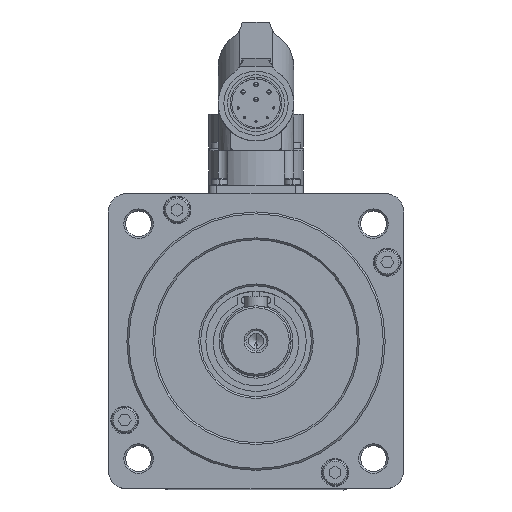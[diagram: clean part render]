
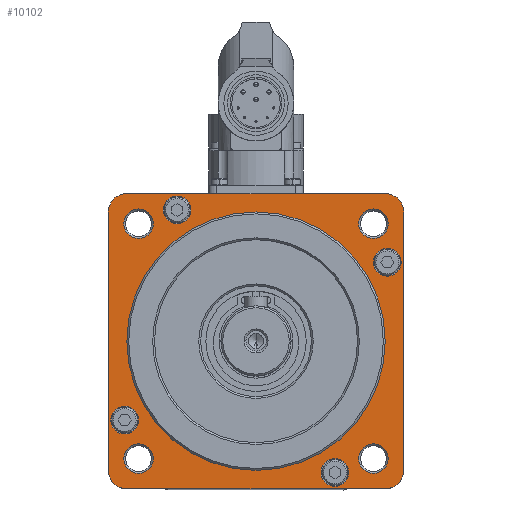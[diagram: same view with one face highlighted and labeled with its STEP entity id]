
A CAD part, top view. The second image highlights one B-rep face of the part: STEP entity #10102.
In plain terms, the highlighted planar face has unit normal (0, 0, 1) as drawn and (0, 0, -1) by its records, which use the part's own axes.
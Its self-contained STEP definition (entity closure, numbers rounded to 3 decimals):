
#8509=CARTESIAN_POINT('',(0.,0.,0.));
#8510=DIRECTION('',(0.,0.,-1.));
#8511=DIRECTION('',(-1.,0.,0.));
#8512=AXIS2_PLACEMENT_3D('',#8509,#8510,#8511);
#8514=CARTESIAN_POINT('',(0.,0.,0.));
#8515=DIRECTION('',(0.,0.,-1.));
#8516=DIRECTION('',(1.,0.,0.));
#8517=AXIS2_PLACEMENT_3D('',#8514,#8515,#8516);
#8519=CARTESIAN_POINT('',(-35.,35.,0.));
#8520=DIRECTION('',(0.,0.,-1.));
#8521=DIRECTION('',(-1.,0.,0.));
#8522=AXIS2_PLACEMENT_3D('',#8519,#8520,#8521);
#8524=DIRECTION('',(0.,-1.,0.));
#8525=VECTOR('',#8524,70.);
#8526=CARTESIAN_POINT('',(-40.,35.,0.));
#8527=LINE('',#8526,#8525);
#8528=CARTESIAN_POINT('',(-35.,-35.,0.));
#8529=DIRECTION('',(0.,0.,-1.));
#8530=DIRECTION('',(0.,-1.,0.));
#8531=AXIS2_PLACEMENT_3D('',#8528,#8529,#8530);
#8533=DIRECTION('',(1.,0.,0.));
#8534=VECTOR('',#8533,70.);
#8535=CARTESIAN_POINT('',(-35.,-40.,0.));
#8536=LINE('',#8535,#8534);
#8537=CARTESIAN_POINT('',(35.,-35.,0.));
#8538=DIRECTION('',(0.,0.,-1.));
#8539=DIRECTION('',(1.,0.,0.));
#8540=AXIS2_PLACEMENT_3D('',#8537,#8538,#8539);
#8542=DIRECTION('',(0.,1.,0.));
#8543=VECTOR('',#8542,70.);
#8544=CARTESIAN_POINT('',(40.,-35.,0.));
#8545=LINE('',#8544,#8543);
#8546=CARTESIAN_POINT('',(35.,35.,0.));
#8547=DIRECTION('',(0.,0.,-1.));
#8548=DIRECTION('',(0.,1.,0.));
#8549=AXIS2_PLACEMENT_3D('',#8546,#8547,#8548);
#8551=DIRECTION('',(-1.,0.,0.));
#8552=VECTOR('',#8551,70.);
#8553=CARTESIAN_POINT('',(35.,40.,0.));
#8554=LINE('',#8553,#8552);
#8555=CARTESIAN_POINT('',(-35.572,21.374,0.));
#8556=DIRECTION('',(0.,0.,1.));
#8557=DIRECTION('',(1.,0.,0.));
#8558=AXIS2_PLACEMENT_3D('',#8555,#8556,#8557);
#8560=CARTESIAN_POINT('',(-35.572,21.374,0.));
#8561=DIRECTION('',(0.,0.,1.));
#8562=DIRECTION('',(-1.,0.,0.));
#8563=AXIS2_PLACEMENT_3D('',#8560,#8561,#8562);
#8565=CARTESIAN_POINT('',(21.374,35.572,0.));
#8566=DIRECTION('',(0.,0.,1.));
#8567=DIRECTION('',(0.,-1.,0.));
#8568=AXIS2_PLACEMENT_3D('',#8565,#8566,#8567);
#8570=CARTESIAN_POINT('',(21.374,35.572,0.));
#8571=DIRECTION('',(0.,0.,1.));
#8572=DIRECTION('',(0.,1.,0.));
#8573=AXIS2_PLACEMENT_3D('',#8570,#8571,#8572);
#8575=CARTESIAN_POINT('',(35.572,-21.374,0.));
#8576=DIRECTION('',(0.,0.,1.));
#8577=DIRECTION('',(-1.,0.,0.));
#8578=AXIS2_PLACEMENT_3D('',#8575,#8576,#8577);
#8580=CARTESIAN_POINT('',(35.572,-21.374,0.));
#8581=DIRECTION('',(0.,0.,1.));
#8582=DIRECTION('',(1.,0.,0.));
#8583=AXIS2_PLACEMENT_3D('',#8580,#8581,#8582);
#8585=CARTESIAN_POINT('',(-21.374,-35.572,0.));
#8586=DIRECTION('',(0.,0.,1.));
#8587=DIRECTION('',(0.,1.,0.));
#8588=AXIS2_PLACEMENT_3D('',#8585,#8586,#8587);
#8590=CARTESIAN_POINT('',(-21.374,-35.572,0.));
#8591=DIRECTION('',(0.,0.,1.));
#8592=DIRECTION('',(0.,-1.,0.));
#8593=AXIS2_PLACEMENT_3D('',#8590,#8591,#8592);
#8595=CARTESIAN_POINT('',(-31.82,-31.82,0.));
#8596=DIRECTION('',(0.,0.,1.));
#8597=DIRECTION('',(-1.,0.,0.));
#8598=AXIS2_PLACEMENT_3D('',#8595,#8596,#8597);
#8600=CARTESIAN_POINT('',(-31.82,-31.82,0.));
#8601=DIRECTION('',(0.,0.,1.));
#8602=DIRECTION('',(1.,0.,0.));
#8603=AXIS2_PLACEMENT_3D('',#8600,#8601,#8602);
#8605=CARTESIAN_POINT('',(31.82,-31.82,0.));
#8606=DIRECTION('',(0.,0.,1.));
#8607=DIRECTION('',(0.,1.,0.));
#8608=AXIS2_PLACEMENT_3D('',#8605,#8606,#8607);
#8610=CARTESIAN_POINT('',(31.82,-31.82,0.));
#8611=DIRECTION('',(0.,0.,1.));
#8612=DIRECTION('',(0.,-1.,0.));
#8613=AXIS2_PLACEMENT_3D('',#8610,#8611,#8612);
#8615=CARTESIAN_POINT('',(-31.82,31.82,0.));
#8616=DIRECTION('',(0.,0.,1.));
#8617=DIRECTION('',(0.,1.,0.));
#8618=AXIS2_PLACEMENT_3D('',#8615,#8616,#8617);
#8620=CARTESIAN_POINT('',(-31.82,31.82,0.));
#8621=DIRECTION('',(0.,0.,1.));
#8622=DIRECTION('',(0.,-1.,0.));
#8623=AXIS2_PLACEMENT_3D('',#8620,#8621,#8622);
#8625=CARTESIAN_POINT('',(31.82,31.82,0.));
#8626=DIRECTION('',(0.,0.,1.));
#8627=DIRECTION('',(-1.,0.,0.));
#8628=AXIS2_PLACEMENT_3D('',#8625,#8626,#8627);
#8630=CARTESIAN_POINT('',(31.82,31.82,0.));
#8631=DIRECTION('',(0.,0.,1.));
#8632=DIRECTION('',(1.,0.,0.));
#8633=AXIS2_PLACEMENT_3D('',#8630,#8631,#8632);
#9705=CARTESIAN_POINT('',(-35.,0.,0.));
#9706=CARTESIAN_POINT('',(35.,0.,0.));
#9707=VERTEX_POINT('',#9705);
#9708=VERTEX_POINT('',#9706);
#9801=CARTESIAN_POINT('',(-40.,35.,0.));
#9802=CARTESIAN_POINT('',(-35.,40.,0.));
#9803=VERTEX_POINT('',#9801);
#9804=VERTEX_POINT('',#9802);
#9809=CARTESIAN_POINT('',(35.,40.,0.));
#9810=CARTESIAN_POINT('',(40.,35.,0.));
#9811=VERTEX_POINT('',#9809);
#9812=VERTEX_POINT('',#9810);
#9817=CARTESIAN_POINT('',(40.,-35.,0.));
#9818=CARTESIAN_POINT('',(35.,-40.,0.));
#9819=VERTEX_POINT('',#9817);
#9820=VERTEX_POINT('',#9818);
#9825=CARTESIAN_POINT('',(-35.,-40.,0.));
#9826=CARTESIAN_POINT('',(-40.,-35.,0.));
#9827=VERTEX_POINT('',#9825);
#9828=VERTEX_POINT('',#9826);
#9837=CARTESIAN_POINT('',(-31.822,21.374,0.));
#9838=CARTESIAN_POINT('',(-39.322,21.374,0.));
#9839=VERTEX_POINT('',#9837);
#9840=VERTEX_POINT('',#9838);
#9845=CARTESIAN_POINT('',(21.374,31.822,0.));
#9846=CARTESIAN_POINT('',(21.374,39.322,0.));
#9847=VERTEX_POINT('',#9845);
#9848=VERTEX_POINT('',#9846);
#9853=CARTESIAN_POINT('',(31.822,-21.374,0.));
#9854=CARTESIAN_POINT('',(39.322,-21.374,0.));
#9855=VERTEX_POINT('',#9853);
#9856=VERTEX_POINT('',#9854);
#9861=CARTESIAN_POINT('',(-21.374,-31.822,0.));
#9862=CARTESIAN_POINT('',(-21.374,-39.322,0.));
#9863=VERTEX_POINT('',#9861);
#9864=VERTEX_POINT('',#9862);
#9969=CARTESIAN_POINT('',(-35.82,-31.82,0.));
#9970=CARTESIAN_POINT('',(-27.82,-31.82,0.));
#9971=VERTEX_POINT('',#9969);
#9972=VERTEX_POINT('',#9970);
#9977=CARTESIAN_POINT('',(31.82,-27.82,0.));
#9978=CARTESIAN_POINT('',(31.82,-35.82,0.));
#9979=VERTEX_POINT('',#9977);
#9980=VERTEX_POINT('',#9978);
#9985=CARTESIAN_POINT('',(-31.82,35.82,0.));
#9986=CARTESIAN_POINT('',(-31.82,27.82,0.));
#9987=VERTEX_POINT('',#9985);
#9988=VERTEX_POINT('',#9986);
#9993=CARTESIAN_POINT('',(27.82,31.82,0.));
#9994=CARTESIAN_POINT('',(35.82,31.82,0.));
#9995=VERTEX_POINT('',#9993);
#9996=VERTEX_POINT('',#9994);
#10025=CARTESIAN_POINT('',(0.,0.,0.));
#10026=DIRECTION('',(0.,0.,1.));
#10027=DIRECTION('',(1.,0.,0.));
#10028=AXIS2_PLACEMENT_3D('',#10025,#10026,#10027);
#10029=PLANE('',#10028);
#10031=ORIENTED_EDGE('',*,*,#10030,.F.);
#10033=ORIENTED_EDGE('',*,*,#10032,.T.);
#10035=ORIENTED_EDGE('',*,*,#10034,.F.);
#10037=ORIENTED_EDGE('',*,*,#10036,.T.);
#10039=ORIENTED_EDGE('',*,*,#10038,.F.);
#10041=ORIENTED_EDGE('',*,*,#10040,.T.);
#10043=ORIENTED_EDGE('',*,*,#10042,.F.);
#10045=ORIENTED_EDGE('',*,*,#10044,.T.);
#10046=EDGE_LOOP('',(#10031,#10033,#10035,#10037,#10039,#10041,#10043,#10045));
#10047=FACE_OUTER_BOUND('',#10046,.F.);
#10049=ORIENTED_EDGE('',*,*,#10048,.T.);
#10051=ORIENTED_EDGE('',*,*,#10050,.T.);
#10052=EDGE_LOOP('',(#10049,#10051));
#10053=FACE_BOUND('',#10052,.F.);
#10055=ORIENTED_EDGE('',*,*,#10054,.F.);
#10057=ORIENTED_EDGE('',*,*,#10056,.F.);
#10058=EDGE_LOOP('',(#10055,#10057));
#10059=FACE_BOUND('',#10058,.F.);
#10061=ORIENTED_EDGE('',*,*,#10060,.F.);
#10063=ORIENTED_EDGE('',*,*,#10062,.F.);
#10064=EDGE_LOOP('',(#10061,#10063));
#10065=FACE_BOUND('',#10064,.F.);
#10067=ORIENTED_EDGE('',*,*,#10066,.F.);
#10069=ORIENTED_EDGE('',*,*,#10068,.F.);
#10070=EDGE_LOOP('',(#10067,#10069));
#10071=FACE_BOUND('',#10070,.F.);
#10073=ORIENTED_EDGE('',*,*,#10072,.F.);
#10075=ORIENTED_EDGE('',*,*,#10074,.F.);
#10076=EDGE_LOOP('',(#10073,#10075));
#10077=FACE_BOUND('',#10076,.F.);
#10079=ORIENTED_EDGE('',*,*,#10078,.F.);
#10081=ORIENTED_EDGE('',*,*,#10080,.F.);
#10082=EDGE_LOOP('',(#10079,#10081));
#10083=FACE_BOUND('',#10082,.F.);
#10085=ORIENTED_EDGE('',*,*,#10084,.F.);
#10087=ORIENTED_EDGE('',*,*,#10086,.F.);
#10088=EDGE_LOOP('',(#10085,#10087));
#10089=FACE_BOUND('',#10088,.F.);
#10091=ORIENTED_EDGE('',*,*,#10090,.F.);
#10093=ORIENTED_EDGE('',*,*,#10092,.F.);
#10094=EDGE_LOOP('',(#10091,#10093));
#10095=FACE_BOUND('',#10094,.F.);
#10097=ORIENTED_EDGE('',*,*,#10096,.F.);
#10099=ORIENTED_EDGE('',*,*,#10098,.F.);
#10100=EDGE_LOOP('',(#10097,#10099));
#10101=FACE_BOUND('',#10100,.F.);
#8513=CIRCLE('',#8512,35.);
#8518=CIRCLE('',#8517,35.);
#8523=CIRCLE('',#8522,5.);
#8532=CIRCLE('',#8531,5.);
#8541=CIRCLE('',#8540,5.);
#8550=CIRCLE('',#8549,5.);
#8559=CIRCLE('',#8558,3.75);
#8564=CIRCLE('',#8563,3.75);
#8569=CIRCLE('',#8568,3.75);
#8574=CIRCLE('',#8573,3.75);
#8579=CIRCLE('',#8578,3.75);
#8584=CIRCLE('',#8583,3.75);
#8589=CIRCLE('',#8588,3.75);
#8594=CIRCLE('',#8593,3.75);
#8599=CIRCLE('',#8598,4.);
#8604=CIRCLE('',#8603,4.);
#8609=CIRCLE('',#8608,4.);
#8614=CIRCLE('',#8613,4.);
#8619=CIRCLE('',#8618,4.);
#8624=CIRCLE('',#8623,4.);
#8629=CIRCLE('',#8628,4.);
#8634=CIRCLE('',#8633,4.);
#10030=EDGE_CURVE('',#9803,#9804,#8523,.T.);
#10032=EDGE_CURVE('',#9803,#9828,#8527,.T.);
#10034=EDGE_CURVE('',#9827,#9828,#8532,.T.);
#10036=EDGE_CURVE('',#9827,#9820,#8536,.T.);
#10038=EDGE_CURVE('',#9819,#9820,#8541,.T.);
#10040=EDGE_CURVE('',#9819,#9812,#8545,.T.);
#10042=EDGE_CURVE('',#9811,#9812,#8550,.T.);
#10044=EDGE_CURVE('',#9811,#9804,#8554,.T.);
#10048=EDGE_CURVE('',#9707,#9708,#8513,.T.);
#10050=EDGE_CURVE('',#9708,#9707,#8518,.T.);
#10054=EDGE_CURVE('',#9839,#9840,#8559,.T.);
#10056=EDGE_CURVE('',#9840,#9839,#8564,.T.);
#10060=EDGE_CURVE('',#9847,#9848,#8569,.T.);
#10062=EDGE_CURVE('',#9848,#9847,#8574,.T.);
#10066=EDGE_CURVE('',#9855,#9856,#8579,.T.);
#10068=EDGE_CURVE('',#9856,#9855,#8584,.T.);
#10072=EDGE_CURVE('',#9863,#9864,#8589,.T.);
#10074=EDGE_CURVE('',#9864,#9863,#8594,.T.);
#10078=EDGE_CURVE('',#9971,#9972,#8599,.T.);
#10080=EDGE_CURVE('',#9972,#9971,#8604,.T.);
#10084=EDGE_CURVE('',#9979,#9980,#8609,.T.);
#10086=EDGE_CURVE('',#9980,#9979,#8614,.T.);
#10090=EDGE_CURVE('',#9987,#9988,#8619,.T.);
#10092=EDGE_CURVE('',#9988,#9987,#8624,.T.);
#10096=EDGE_CURVE('',#9995,#9996,#8629,.T.);
#10098=EDGE_CURVE('',#9996,#9995,#8634,.T.);
#10102=ADVANCED_FACE('',(#10047,#10053,#10059,#10065,#10071,#10077,#10083,
#10089,#10095,#10101),#10029,.F.);
